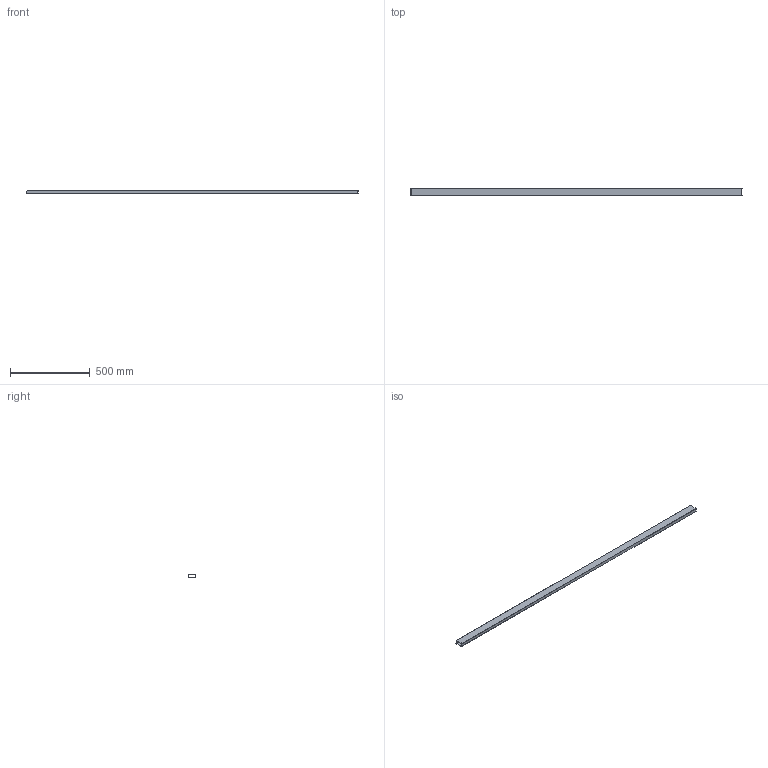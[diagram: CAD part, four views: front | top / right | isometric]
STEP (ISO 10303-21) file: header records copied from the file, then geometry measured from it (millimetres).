
FILE_DESCRIPTION(/* description */ (''),/* implementation_level */ '2;1');
FILE_NAME(/* name */ 'Pos119-Koker 50x20x2 EN 10219-2-S235JRH-1st',/* time_stamp */ '2024-08-06T13:49:48+02:00',/* author */ (''),/* organization */ (''),/* preprocessor_version */ 'ST-DEVELOPER v16.5',/* originating_system */ 'HiCAD 2024 2901.2 Build 361',/* authorisation */ '');
FILE_SCHEMA (('AUTOMOTIVE_DESIGN { 1 0 10303 214 1 1 1 1 }'));
Length unit declared in the file: millimetre
Products named in the file (1): Pos119-Koker 50x20x2 EN 10219-2-S235JRH-1st
Bounding box: 2077.92 x 50 x 20 mm (x, y, z)
Volume: 547635.7 mm3; surface area: 548179.8 mm2
Topology: 1 solids, 1 shells, 10 faces, 24 edges, 16 vertices
Faces by surface type: plane 10
Entity records: 550 total; most frequent: CARTESIAN_POINT 50, PRESENTATION_STYLE_ASSIGNMENT 49, COLOUR_RGB 49, DRAUGHTING_PRE_DEFINED_CURVE_FONT 48, CURVE_STYLE 48, OVER_RIDING_STYLED_ITEM 48, ORIENTED_EDGE 48, DIRECTION 44
